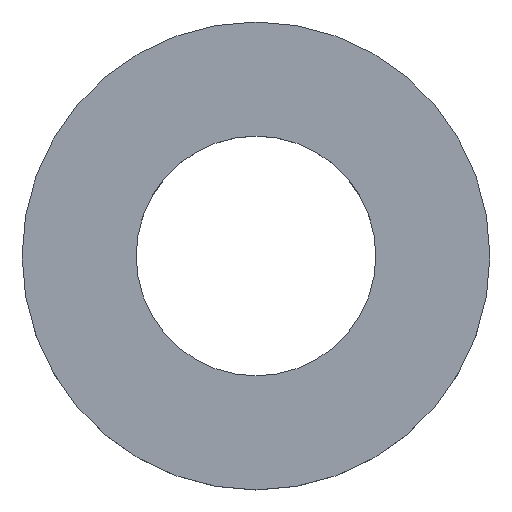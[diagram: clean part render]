
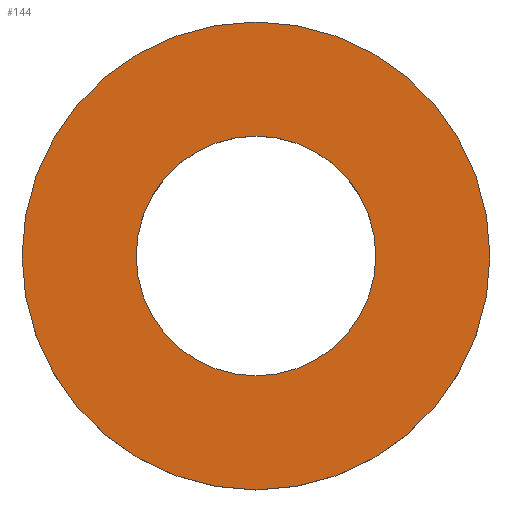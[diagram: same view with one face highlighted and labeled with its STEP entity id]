
A CAD part, top view. The second image highlights one B-rep face of the part: STEP entity #144.
In plain terms, the highlighted planar face has unit normal (0, 0, 1).
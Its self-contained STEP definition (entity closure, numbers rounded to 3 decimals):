
#24 = VERTEX_POINT('',#25);
#25 = CARTESIAN_POINT('',(12.8,-43.,9.15));
#32 = CYLINDRICAL_SURFACE('',#33,2.);
#33 = AXIS2_PLACEMENT_3D('',#34,#35,#36);
#34 = CARTESIAN_POINT('',(10.8,-43.,8.65));
#35 = DIRECTION('',(-0.,-0.,-1.));
#36 = DIRECTION('',(1.,0.,0.));
#51 = EDGE_CURVE('',#24,#24,#52,.T.);
#52 = SURFACE_CURVE('',#53,(#58,#65),.PCURVE_S1.);
#53 = CIRCLE('',#54,2.);
#54 = AXIS2_PLACEMENT_3D('',#55,#56,#57);
#55 = CARTESIAN_POINT('',(10.8,-43.,9.15));
#56 = DIRECTION('',(0.,0.,1.));
#57 = DIRECTION('',(1.,0.,0.));
#58 = PCURVE('',#32,#59);
#59 = DEFINITIONAL_REPRESENTATION('',(#60),#64);
#60 = LINE('',#61,#62);
#61 = CARTESIAN_POINT('',(-0.,-0.5));
#62 = VECTOR('',#63,1.);
#63 = DIRECTION('',(-1.,0.));
#64 = ( GEOMETRIC_REPRESENTATION_CONTEXT(2) 
PARAMETRIC_REPRESENTATION_CONTEXT() REPRESENTATION_CONTEXT('2D SPACE',''
  ) );
#65 = PCURVE('',#66,#71);
#66 = PLANE('',#67);
#67 = AXIS2_PLACEMENT_3D('',#68,#69,#70);
#68 = CARTESIAN_POINT('',(10.8,-43.,9.15));
#69 = DIRECTION('',(0.,0.,1.));
#70 = DIRECTION('',(1.,0.,-0.));
#71 = DEFINITIONAL_REPRESENTATION('',(#72),#76);
#72 = CIRCLE('',#73,2.);
#73 = AXIS2_PLACEMENT_2D('',#74,#75);
#74 = CARTESIAN_POINT('',(0.,0.));
#75 = DIRECTION('',(1.,0.));
#76 = ( GEOMETRIC_REPRESENTATION_CONTEXT(2) 
PARAMETRIC_REPRESENTATION_CONTEXT() REPRESENTATION_CONTEXT('2D SPACE',''
  ) );
#133 = CYLINDRICAL_SURFACE('',#134,1.025);
#134 = AXIS2_PLACEMENT_3D('',#135,#136,#137);
#135 = CARTESIAN_POINT('',(10.8,-43.,8.55));
#136 = DIRECTION('',(-0.,-0.,-1.));
#137 = DIRECTION('',(1.,0.,0.));
#144 = ADVANCED_FACE('',(#145,#148),#66,.T.);
#145 = FACE_BOUND('',#146,.T.);
#146 = EDGE_LOOP('',(#147));
#147 = ORIENTED_EDGE('',*,*,#51,.T.);
#148 = FACE_BOUND('',#149,.T.);
#149 = EDGE_LOOP('',(#150));
#150 = ORIENTED_EDGE('',*,*,#151,.T.);
#151 = EDGE_CURVE('',#152,#152,#154,.T.);
#152 = VERTEX_POINT('',#153);
#153 = CARTESIAN_POINT('',(11.825,-43.,9.15));
#154 = SURFACE_CURVE('',#155,(#160,#171),.PCURVE_S1.);
#155 = CIRCLE('',#156,1.025);
#156 = AXIS2_PLACEMENT_3D('',#157,#158,#159);
#157 = CARTESIAN_POINT('',(10.8,-43.,9.15));
#158 = DIRECTION('',(0.,0.,-1.));
#159 = DIRECTION('',(1.,0.,0.));
#160 = PCURVE('',#66,#161);
#161 = DEFINITIONAL_REPRESENTATION('',(#162),#170);
#162 = ( BOUNDED_CURVE() B_SPLINE_CURVE(2,(#163,#164,#165,#166,#167,#168
,#169),.UNSPECIFIED.,.T.,.F.) B_SPLINE_CURVE_WITH_KNOTS((1,2,2,2,2,1),(
    -2.094,0.,2.094,4.189,6.283,
8.378),.UNSPECIFIED.) CURVE() GEOMETRIC_REPRESENTATION_ITEM() 
RATIONAL_B_SPLINE_CURVE((1.,0.5,1.,0.5,1.,0.5,1.)) REPRESENTATION_ITEM(
  '') );
#163 = CARTESIAN_POINT('',(1.025,0.));
#164 = CARTESIAN_POINT('',(1.025,-1.775));
#165 = CARTESIAN_POINT('',(-0.513,-0.888));
#166 = CARTESIAN_POINT('',(-2.05,0.));
#167 = CARTESIAN_POINT('',(-0.513,0.888));
#168 = CARTESIAN_POINT('',(1.025,1.775));
#169 = CARTESIAN_POINT('',(1.025,0.));
#170 = ( GEOMETRIC_REPRESENTATION_CONTEXT(2) 
PARAMETRIC_REPRESENTATION_CONTEXT() REPRESENTATION_CONTEXT('2D SPACE',''
  ) );
#171 = PCURVE('',#133,#172);
#172 = DEFINITIONAL_REPRESENTATION('',(#173),#177);
#173 = LINE('',#174,#175);
#174 = CARTESIAN_POINT('',(-6.283,-0.6));
#175 = VECTOR('',#176,1.);
#176 = DIRECTION('',(1.,-0.));
#177 = ( GEOMETRIC_REPRESENTATION_CONTEXT(2) 
PARAMETRIC_REPRESENTATION_CONTEXT() REPRESENTATION_CONTEXT('2D SPACE',''
  ) );
